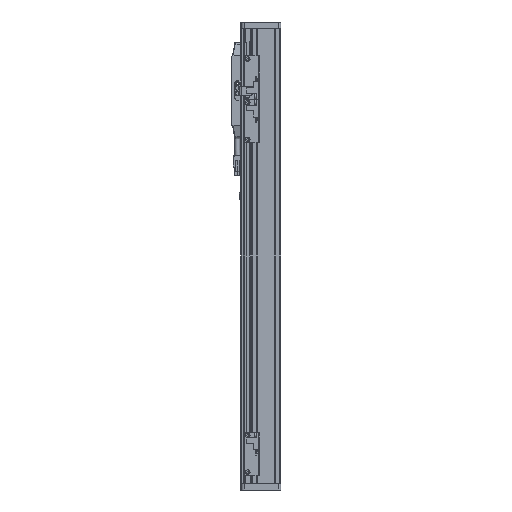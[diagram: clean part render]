
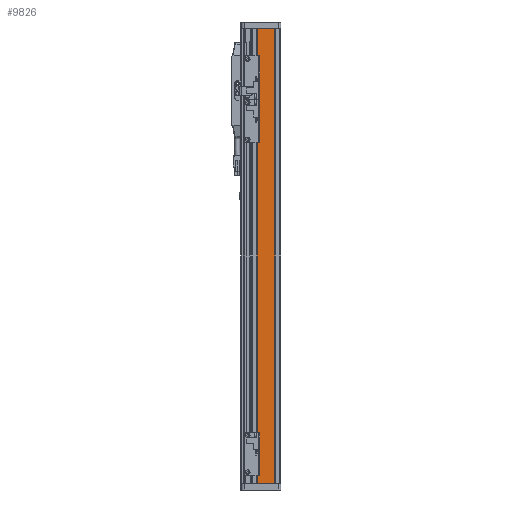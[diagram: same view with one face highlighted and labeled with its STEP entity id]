
A CAD part, left-side view. The second image highlights one B-rep face of the part: STEP entity #9826.
In plain terms, the highlighted planar face has unit normal (-1, 0, 0).
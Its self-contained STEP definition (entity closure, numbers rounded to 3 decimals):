
#152 = PLANE('',#153);
#153 = AXIS2_PLACEMENT_3D('',#154,#155,#156);
#154 = CARTESIAN_POINT('',(0.,0.,275.));
#155 = DIRECTION('',(-0.,0.,1.));
#156 = DIRECTION('',(1.,0.,0.));
#993 = PLANE('',#994);
#994 = AXIS2_PLACEMENT_3D('',#995,#996,#997);
#995 = CARTESIAN_POINT('',(0.,0.,-275.));
#996 = DIRECTION('',(-0.,0.,1.));
#997 = DIRECTION('',(1.,0.,0.));
#4873 = PLANE('',#4874);
#4874 = AXIS2_PLACEMENT_3D('',#4875,#4876,#4877);
#4875 = CARTESIAN_POINT('',(-27.5,-17.,270.));
#4876 = DIRECTION('',(-0.707,0.707,0.));
#4877 = DIRECTION('',(0.,0.,1.));
#5275 = VERTEX_POINT('',#5276);
#5276 = CARTESIAN_POINT('',(-27.1,4.6,275.));
#5290 = PLANE('',#5291);
#5291 = AXIS2_PLACEMENT_3D('',#5292,#5293,#5294);
#5292 = CARTESIAN_POINT('',(-27.1,4.6,270.));
#5293 = DIRECTION('',(-0.707,-0.707,0.));
#5294 = DIRECTION('',(0.,0.,1.));
#5302 = EDGE_CURVE('',#5275,#5303,#5305,.T.);
#5303 = VERTEX_POINT('',#5304);
#5304 = CARTESIAN_POINT('',(-27.1,-16.6,275.));
#5305 = SURFACE_CURVE('',#5306,(#5310,#5317),.PCURVE_S1.);
#5306 = LINE('',#5307,#5308);
#5307 = CARTESIAN_POINT('',(-27.1,8.,275.));
#5308 = VECTOR('',#5309,1.);
#5309 = DIRECTION('',(0.,-1.,0.));
#5310 = PCURVE('',#152,#5311);
#5311 = DEFINITIONAL_REPRESENTATION('',(#5312),#5316);
#5312 = LINE('',#5313,#5314);
#5313 = CARTESIAN_POINT('',(-27.1,8.));
#5314 = VECTOR('',#5315,1.);
#5315 = DIRECTION('',(0.,-1.));
#5316 = ( GEOMETRIC_REPRESENTATION_CONTEXT(2) 
PARAMETRIC_REPRESENTATION_CONTEXT() REPRESENTATION_CONTEXT('2D SPACE',''
  ) );
#5317 = PCURVE('',#5318,#5323);
#5318 = PLANE('',#5319);
#5319 = AXIS2_PLACEMENT_3D('',#5320,#5321,#5322);
#5320 = CARTESIAN_POINT('',(-27.1,8.,270.));
#5321 = DIRECTION('',(1.,0.,0.));
#5322 = DIRECTION('',(0.,1.,0.));
#5323 = DEFINITIONAL_REPRESENTATION('',(#5324),#5328);
#5324 = LINE('',#5325,#5326);
#5325 = CARTESIAN_POINT('',(0.,5.));
#5326 = VECTOR('',#5327,1.);
#5327 = DIRECTION('',(-1.,0.));
#5328 = ( GEOMETRIC_REPRESENTATION_CONTEXT(2) 
PARAMETRIC_REPRESENTATION_CONTEXT() REPRESENTATION_CONTEXT('2D SPACE',''
  ) );
#6342 = VERTEX_POINT('',#6343);
#6343 = CARTESIAN_POINT('',(-27.1,-16.6,-275.));
#6364 = EDGE_CURVE('',#6342,#6365,#6367,.T.);
#6365 = VERTEX_POINT('',#6366);
#6366 = CARTESIAN_POINT('',(-27.1,4.6,-275.));
#6367 = SURFACE_CURVE('',#6368,(#6372,#6379),.PCURVE_S1.);
#6368 = LINE('',#6369,#6370);
#6369 = CARTESIAN_POINT('',(-27.1,0.,-275.));
#6370 = VECTOR('',#6371,1.);
#6371 = DIRECTION('',(0.,1.,0.));
#6372 = PCURVE('',#993,#6373);
#6373 = DEFINITIONAL_REPRESENTATION('',(#6374),#6378);
#6374 = LINE('',#6375,#6376);
#6375 = CARTESIAN_POINT('',(-27.1,0.));
#6376 = VECTOR('',#6377,1.);
#6377 = DIRECTION('',(0.,1.));
#6378 = ( GEOMETRIC_REPRESENTATION_CONTEXT(2) 
PARAMETRIC_REPRESENTATION_CONTEXT() REPRESENTATION_CONTEXT('2D SPACE',''
  ) );
#6379 = PCURVE('',#5318,#6380);
#6380 = DEFINITIONAL_REPRESENTATION('',(#6381),#6385);
#6381 = LINE('',#6382,#6383);
#6382 = CARTESIAN_POINT('',(-8.,-545.));
#6383 = VECTOR('',#6384,1.);
#6384 = DIRECTION('',(1.,0.));
#6385 = ( GEOMETRIC_REPRESENTATION_CONTEXT(2) 
PARAMETRIC_REPRESENTATION_CONTEXT() REPRESENTATION_CONTEXT('2D SPACE',''
  ) );
#9826 = ADVANCED_FACE('',(#9827),#5318,.F.);
#9827 = FACE_BOUND('',#9828,.T.);
#9828 = EDGE_LOOP('',(#9829,#9830,#9851,#9852));
#9829 = ORIENTED_EDGE('',*,*,#5302,.F.);
#9830 = ORIENTED_EDGE('',*,*,#9831,.T.);
#9831 = EDGE_CURVE('',#5275,#6365,#9832,.T.);
#9832 = SURFACE_CURVE('',#9833,(#9837,#9844),.PCURVE_S1.);
#9833 = LINE('',#9834,#9835);
#9834 = CARTESIAN_POINT('',(-27.1,4.6,-270.));
#9835 = VECTOR('',#9836,1.);
#9836 = DIRECTION('',(0.,0.,-1.));
#9837 = PCURVE('',#5318,#9838);
#9838 = DEFINITIONAL_REPRESENTATION('',(#9839),#9843);
#9839 = LINE('',#9840,#9841);
#9840 = CARTESIAN_POINT('',(-3.4,-540.));
#9841 = VECTOR('',#9842,1.);
#9842 = DIRECTION('',(0.,-1.));
#9843 = ( GEOMETRIC_REPRESENTATION_CONTEXT(2) 
PARAMETRIC_REPRESENTATION_CONTEXT() REPRESENTATION_CONTEXT('2D SPACE',''
  ) );
#9844 = PCURVE('',#5290,#9845);
#9845 = DEFINITIONAL_REPRESENTATION('',(#9846),#9850);
#9846 = LINE('',#9847,#9848);
#9847 = CARTESIAN_POINT('',(-540.,0.));
#9848 = VECTOR('',#9849,1.);
#9849 = DIRECTION('',(-1.,0.));
#9850 = ( GEOMETRIC_REPRESENTATION_CONTEXT(2) 
PARAMETRIC_REPRESENTATION_CONTEXT() REPRESENTATION_CONTEXT('2D SPACE',''
  ) );
#9851 = ORIENTED_EDGE('',*,*,#6364,.F.);
#9852 = ORIENTED_EDGE('',*,*,#9853,.T.);
#9853 = EDGE_CURVE('',#6342,#5303,#9854,.T.);
#9854 = SURFACE_CURVE('',#9855,(#9859,#9866),.PCURVE_S1.);
#9855 = LINE('',#9856,#9857);
#9856 = CARTESIAN_POINT('',(-27.1,-16.6,270.));
#9857 = VECTOR('',#9858,1.);
#9858 = DIRECTION('',(0.,0.,1.));
#9859 = PCURVE('',#5318,#9860);
#9860 = DEFINITIONAL_REPRESENTATION('',(#9861),#9865);
#9861 = LINE('',#9862,#9863);
#9862 = CARTESIAN_POINT('',(-24.6,0.));
#9863 = VECTOR('',#9864,1.);
#9864 = DIRECTION('',(0.,1.));
#9865 = ( GEOMETRIC_REPRESENTATION_CONTEXT(2) 
PARAMETRIC_REPRESENTATION_CONTEXT() REPRESENTATION_CONTEXT('2D SPACE',''
  ) );
#9866 = PCURVE('',#4873,#9867);
#9867 = DEFINITIONAL_REPRESENTATION('',(#9868),#9872);
#9868 = LINE('',#9869,#9870);
#9869 = CARTESIAN_POINT('',(0.,0.566));
#9870 = VECTOR('',#9871,1.);
#9871 = DIRECTION('',(1.,0.));
#9872 = ( GEOMETRIC_REPRESENTATION_CONTEXT(2) 
PARAMETRIC_REPRESENTATION_CONTEXT() REPRESENTATION_CONTEXT('2D SPACE',''
  ) );
